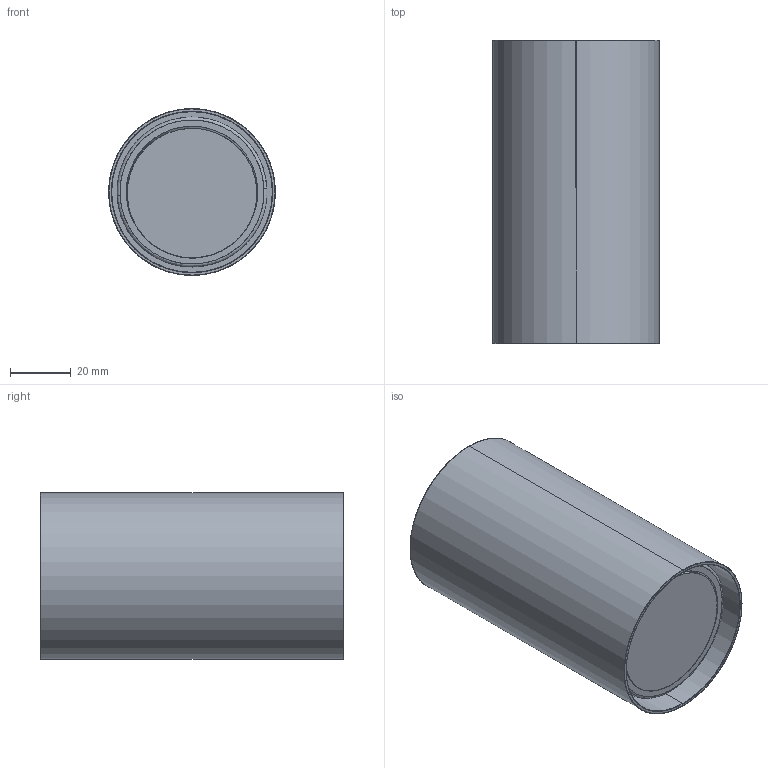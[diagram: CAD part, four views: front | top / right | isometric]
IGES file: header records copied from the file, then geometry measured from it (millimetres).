
Start section: SolidWorks IGES file using analytic representation for surfaces
Global section: file name: Z:\Modele 3D_WWW\_KOLEKCJE_WWW\EYE-S-5255-5256-5257-6836-8911\EYE-S-5255-5256-5257-6836-8911.IGS; native system: SolidWorks 2021; preprocessor: SolidWorks 2021; author: gabriela.tworek; date: 210625.101351; units: millimetre
Bounding box: 55 x 100 x 55 mm (x, y, z)
Surface area: 50423.2 mm2 (no closed solid volume)
Topology: 0 solids, 0 shells, 38 faces, 1013 edges, 1013 vertices
Faces by surface type: bspline 26, revolution 12
